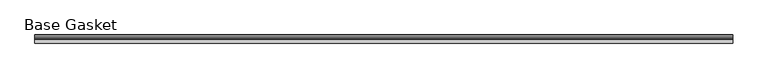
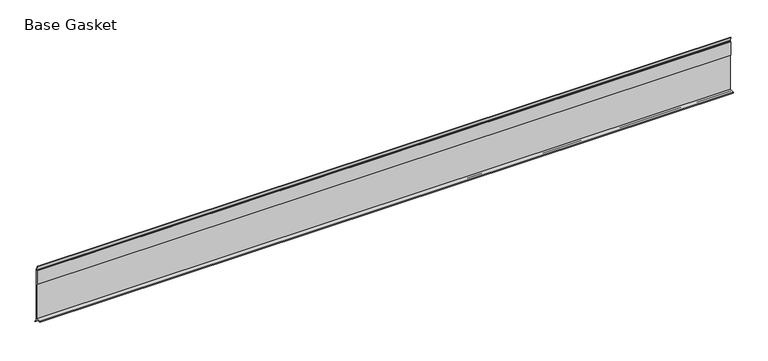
"""IFC4 building model written with IfcOpenShell, lengths in millimetres: furniture geometry, Gasket-Teknion-FHGB-AI_Healthcare-R2021 : Base Gasket."""

from ifc_helpers import new_model, si_unit, frame, origin, place, context, project, spatial, polyline, outline, extrude, source, transform, mapped, element, save


def base_gasket_342b4399(model_context):
    return source(origin(), model_context, "Body", "SweptSolid", [
        extrude(outline(polyline([(3.7283812, 98.4568417), (3.7283812, 4.3498477), (7.4222115, 0.6560174), (7.8482342, 0.0), (6.8281054, 0.3520979), (2.2043812, 4.3498477), (2.1334222, 6.3818476), (-6.2405171, 6.3818476), (-6.2405171, 7.9398773), (2.2043812, 7.9398773), (2.2043812, 71.4693447), (1.4106313, 71.4693447), (1.4106313, 96.8693477), (2.2043812, 96.8693477), (2.2043812, 98.4568417), (0.6755308, 104.4162708), (0.6755308, 105.2002997), (1.1891543, 104.587663), (3.7283812, 98.4568417)])), frame((-1527.8982117, 0.0, 0.0), z_axis=(1.0, 0.0, 0.0), x_axis=(0.0, 1.0, 0.0)), (0.0, 0.0, 1.0), 1210.2924882),
    ])


if __name__ == "__main__":
    model = new_model("IFC4")
    model_context = context("Model", 3, world=origin())
    ifc_project = project(units=[si_unit("LENGTHUNIT", "METRE", prefix="MILLI")], contexts=[model_context])
    site = spatial("IfcSite", under=ifc_project)
    building = spatial("IfcBuilding", under=site)
    placement = place(None, origin())
    base_gasket_shape = base_gasket_342b4399(model_context)
    element("IfcFurniture", 1, ObjectType="Gasket-Teknion-FHGB-AI_Healthcare-R2021 : Base Gasket", at=placement, inside=building, context=model_context, shape_type="MappedRepresentation", body=[
        mapped(base_gasket_shape, transform((0.0, 0.0, 0.0), x_axis=(1.0, 0.0, 0.0), y_axis=(0.0, 1.0, 0.0), z_axis=(0.0, 0.0, 1.0))),
    ])
    save(model, "model.ifc")
